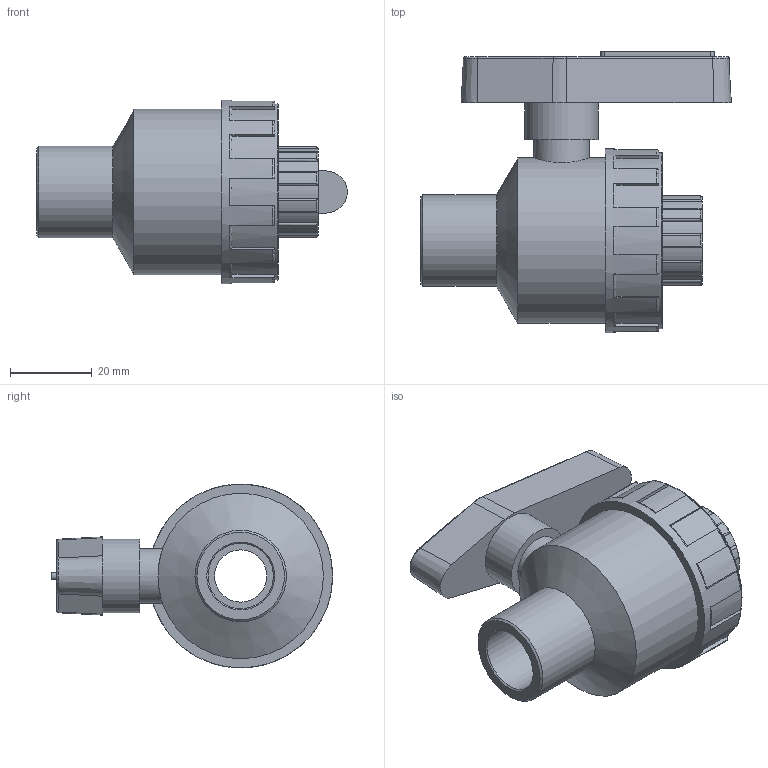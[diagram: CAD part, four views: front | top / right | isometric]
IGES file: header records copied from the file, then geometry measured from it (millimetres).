
Global section: file name: 11350016.ipt; native system: Autodesk Inventor 2015; preprocessor: unknown; author: KIM; date: 20171207.170422; units: millimetre
Bounding box: 76.07 x 68.85 x 45 mm (x, y, z)
Volume: 66065.6 mm3; surface area: 16842.7 mm2
Topology: 1 solids, 1 shells, 166 faces, 447 edges, 290 vertices
Faces by surface type: plane 64, cylinder 52, revolution 34, cone 16
Full cylindrical faces by diameter (mm): 13.5 x1, 18 x1, 22.4 x1, 40.5 x1, 43.2 x1, 45 x1
